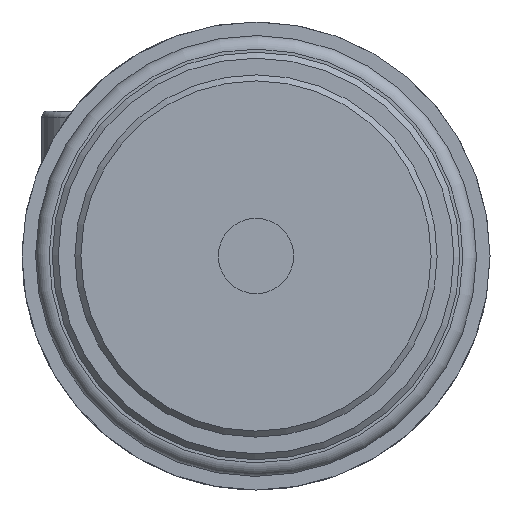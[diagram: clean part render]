
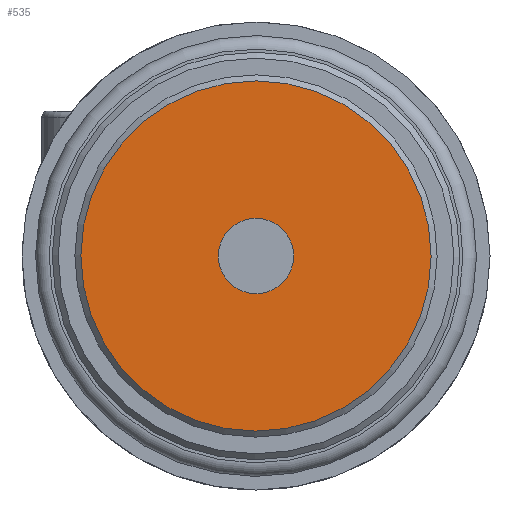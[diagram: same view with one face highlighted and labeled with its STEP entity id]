
A CAD part, left-side view. The second image highlights one B-rep face of the part: STEP entity #535.
In plain terms, the highlighted planar face has unit normal (-1, 0, 0) as drawn and (1, 0, 0) by its records, which use the part's own axes.
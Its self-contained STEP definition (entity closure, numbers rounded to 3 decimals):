
#535 = ADVANCED_FACE( '', ( #1173, #1174 ), #1175, .T. );
#1173 = FACE_OUTER_BOUND( '', #2013, .T. );
#1174 = FACE_BOUND( '', #2014, .T. );
#1175 = PLANE( '', #2015 );
#2013 = EDGE_LOOP( '', ( #3134 ) );
#2014 = EDGE_LOOP( '', ( #3135 ) );
#2015 = AXIS2_PLACEMENT_3D( '', #3136, #3137, #3138 );
#3134 = ORIENTED_EDGE( '', *, *, #4448, .T. );
#3135 = ORIENTED_EDGE( '', *, *, #4449, .T. );
#3136 = CARTESIAN_POINT( '', ( 13., 0., 6. ) );
#3137 = DIRECTION( '', ( 1., 0., 0. ) );
#3138 = DIRECTION( '', ( 0., 0., -1. ) );
#4448 = EDGE_CURVE( '', #5222, #5222, #5223, .T. );
#4449 = EDGE_CURVE( '', #5224, #5224, #5225, .T. );
#5222 = VERTEX_POINT( '', #6294 );
#5223 = CIRCLE( '', #6295, 5.8 );
#5224 = VERTEX_POINT( '', #6296 );
#5225 = CIRCLE( '', #6297, 1.25 );
#6294 = CARTESIAN_POINT( '', ( 13., 0., -5.8 ) );
#6295 = AXIS2_PLACEMENT_3D( '', #7163, #7164, #7165 );
#6296 = CARTESIAN_POINT( '', ( 13., 0., 1.25 ) );
#6297 = AXIS2_PLACEMENT_3D( '', #7166, #7167, #7168 );
#7163 = CARTESIAN_POINT( '', ( 13., 0., 0. ) );
#7164 = DIRECTION( '', ( 1., 0., 0. ) );
#7165 = DIRECTION( '', ( 0., 0., -1. ) );
#7166 = CARTESIAN_POINT( '', ( 13., 0., 0. ) );
#7167 = DIRECTION( '', ( -1., 0., 0. ) );
#7168 = DIRECTION( '', ( 0., 0., 1. ) );
